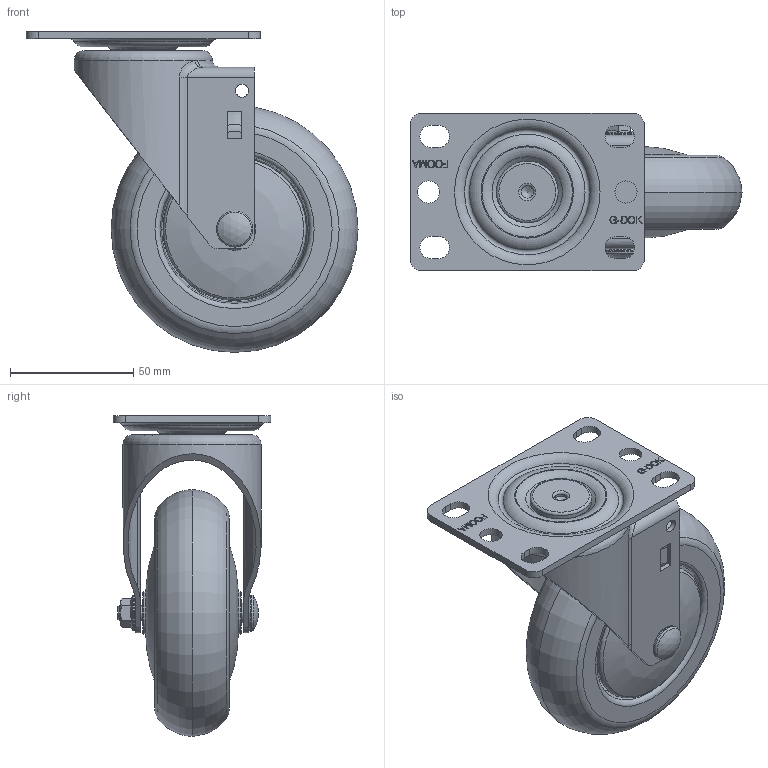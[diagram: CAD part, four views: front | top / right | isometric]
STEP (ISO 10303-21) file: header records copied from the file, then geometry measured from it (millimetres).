
FILE_DESCRIPTION(/* description */ (''),/* implementation_level */ '2;1');
FILE_NAME(/* name */ 'E:\홈피용도면\\X2\C2E0ADDCD648D398C774C9C0C6A9B3C4BA74\X0\\무소음캐스터\20160225-\X2\BB34C18CC74CCE90C2A4D130\X0\\GL-100-ASF.stp',/* time_stamp */ '2016-02-25T21:16:38+09:00',/* author */ ('장용하'),/* organization */ (''),/* preprocessor_version */ 'ST-DEVELOPER v15.6',/* originating_system */ 'Autodesk Inventor 2015',/* authorisation */ '');
FILE_SCHEMA (('AUTOMOTIVE_DESIGN { 1 0 10303 214 3 1 1 }'));
Length unit declared in the file: millimetre
Products named in the file (1): GL-100-ASF
Bounding box: 134.5 x 64 x 130 mm (x, y, z)
Volume: 225752.2 mm3; surface area: 79645.5 mm2
Topology: 2 solids, 3 shells, 889 faces, 2395 edges, 1568 vertices
Faces by surface type: plane 706, torus 72, cylinder 48, cone 41, bspline 21, sphere 1
Full cylindrical faces by diameter (mm): 5 x1, 5.2 x2, 6 x2, 6.2 x1, 7 x1, 8 x1, 9 x2, 11 x1, 11.1 x1, 11.2 x1, 14 x1, 14.6 x1, 16 x1, 22 x2, 24.645 x1, 25 x1, 41 x1
Entity records: 28304 total; most frequent: CARTESIAN_POINT 6452, ORIENTED_EDGE 4518, DIRECTION 4208, EDGE_CURVE 2259, LINE 1938, VECTOR 1938, VERTEX_POINT 1560, AXIS2_PLACEMENT_3D 1135
